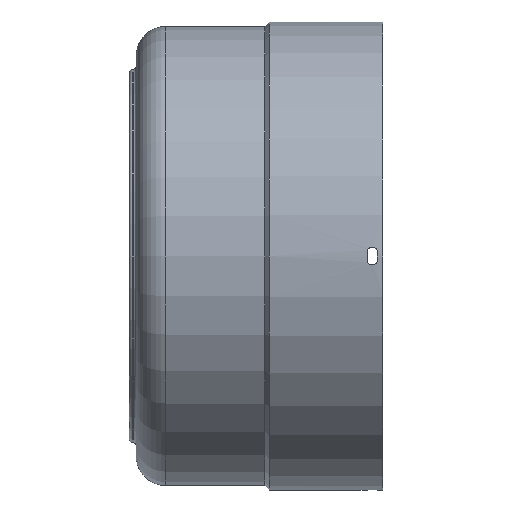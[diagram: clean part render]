
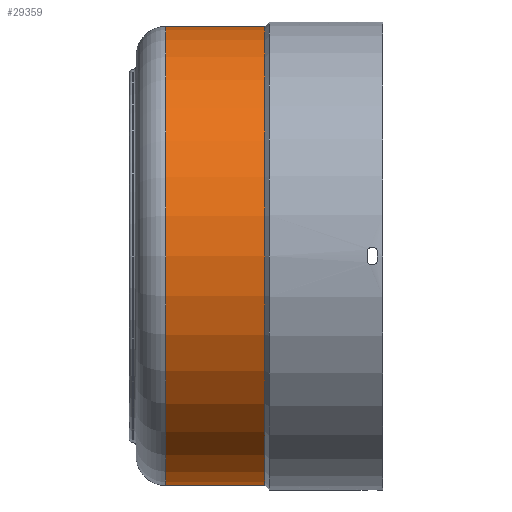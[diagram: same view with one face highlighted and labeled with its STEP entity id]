
A CAD part, left-side view. The second image highlights one B-rep face of the part: STEP entity #29359.
In plain terms, the highlighted cylindrical face has radius 154 mm (diameter 308 mm), a partial arc.
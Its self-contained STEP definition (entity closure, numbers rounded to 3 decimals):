
#760 = DIRECTION ( 'NONE',  ( 0., 0., -1. ) ) ;
#1407 = CARTESIAN_POINT ( 'NONE',  ( 0., 60.5, -154. ) ) ;
#3625 = AXIS2_PLACEMENT_3D ( 'NONE', #26386, #7612, #7784 ) ;
#5756 = CIRCLE ( 'NONE', #3625, 154. ) ;
#6120 = CARTESIAN_POINT ( 'NONE',  ( 0., -6., 0. ) ) ;
#7612 = DIRECTION ( 'NONE',  ( 0., -1., 0. ) ) ;
#7779 = VECTOR ( 'NONE', #30769, 1000. ) ;
#7784 = DIRECTION ( 'NONE',  ( 0., 0., -1. ) ) ;
#7947 = AXIS2_PLACEMENT_3D ( 'NONE', #6120, #21293, #32350 ) ;
#8528 = ORIENTED_EDGE ( 'NONE', *, *, #45920, .T. ) ;
#8847 = CARTESIAN_POINT ( 'NONE',  ( 0., -44., 0. ) ) ;
#10424 = CARTESIAN_POINT ( 'NONE',  ( 0., -6., 154. ) ) ;
#11832 = EDGE_LOOP ( 'NONE', ( #17225, #31363, #8528, #26700 ) ) ;
#17225 = ORIENTED_EDGE ( 'NONE', *, *, #41560, .F. ) ;
#17458 = EDGE_CURVE ( 'NONE', #37655, #24139, #5756, .T. ) ;
#18616 = CARTESIAN_POINT ( 'NONE',  ( 0., -44., -154. ) ) ;
#19663 = CIRCLE ( 'NONE', #7947, 154. ) ;
#21293 = DIRECTION ( 'NONE',  ( 0., -1., 0. ) ) ;
#23408 = EDGE_CURVE ( 'NONE', #27994, #32520, #19663, .T. ) ;
#24139 = VERTEX_POINT ( 'NONE', #1407 ) ;
#26328 = CYLINDRICAL_SURFACE ( 'NONE', #40401, 154. ) ;
#26386 = CARTESIAN_POINT ( 'NONE',  ( 0., 60.5, 0. ) ) ;
#26700 = ORIENTED_EDGE ( 'NONE', *, *, #23408, .F. ) ;
#26946 = FACE_OUTER_BOUND ( 'NONE', #11832, .T. ) ;
#27994 = VERTEX_POINT ( 'NONE', #10424 ) ;
#29359 = ADVANCED_FACE ( 'NONE', ( #26946 ), #26328, .T. ) ;
#30769 = DIRECTION ( 'NONE',  ( 0., -1., 0. ) ) ;
#31363 = ORIENTED_EDGE ( 'NONE', *, *, #17458, .T. ) ;
#32350 = DIRECTION ( 'NONE',  ( 0., 0., -1. ) ) ;
#32520 = VERTEX_POINT ( 'NONE', #39853 ) ;
#36200 = LINE ( 'NONE', #18616, #43892 ) ;
#37655 = VERTEX_POINT ( 'NONE', #48572 ) ;
#37985 = DIRECTION ( 'NONE',  ( 0., -1., 0. ) ) ;
#38241 = CARTESIAN_POINT ( 'NONE',  ( 0., -44., 154. ) ) ;
#39105 = DIRECTION ( 'NONE',  ( 0., -1., 0. ) ) ;
#39853 = CARTESIAN_POINT ( 'NONE',  ( 0., -6., -154. ) ) ;
#40401 = AXIS2_PLACEMENT_3D ( 'NONE', #8847, #39105, #760 ) ;
#41560 = EDGE_CURVE ( 'NONE', #37655, #27994, #48027, .T. ) ;
#43892 = VECTOR ( 'NONE', #37985, 1000. ) ;
#45920 = EDGE_CURVE ( 'NONE', #24139, #32520, #36200, .T. ) ;
#48027 = LINE ( 'NONE', #38241, #7779 ) ;
#48572 = CARTESIAN_POINT ( 'NONE',  ( 0., 60.5, 154. ) ) ;
